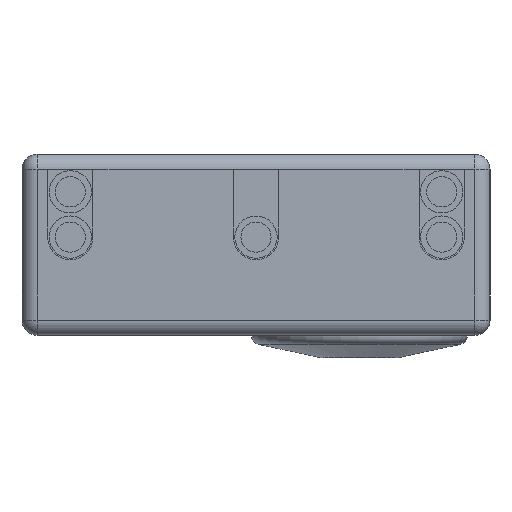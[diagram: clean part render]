
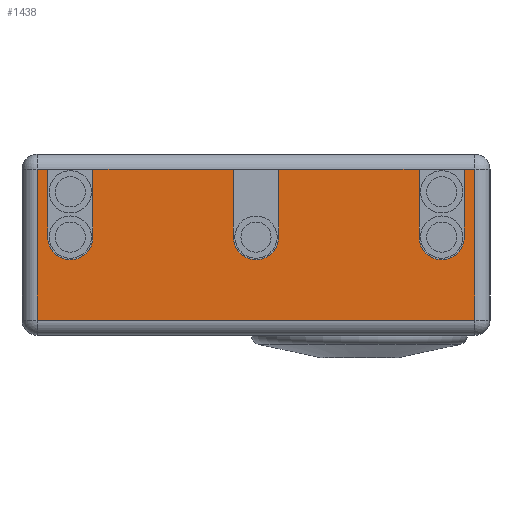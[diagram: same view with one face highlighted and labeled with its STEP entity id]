
A CAD part, left-side view. The second image highlights one B-rep face of the part: STEP entity #1438.
In plain terms, the highlighted planar face has unit normal (-1, 0, 0).
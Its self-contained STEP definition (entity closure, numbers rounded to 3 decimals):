
#73=PLANE('',#1627);
#160=FACE_OUTER_BOUND('',#259,.T.);
#259=EDGE_LOOP('',(#1246,#1247,#1248,#1249,#1250,#1251,#1252,#1253,#1254,
#1255,#1256,#1257,#1258,#1259,#1260,#1261));
#323=LINE('',#2312,#439);
#327=LINE('',#2321,#443);
#331=LINE('',#2330,#447);
#345=LINE('',#2369,#461);
#348=LINE('',#2375,#464);
#351=LINE('',#2381,#467);
#352=LINE('',#2387,#468);
#370=LINE('',#2459,#486);
#371=LINE('',#2460,#487);
#372=LINE('',#2461,#488);
#373=LINE('',#2463,#489);
#377=LINE('',#2477,#493);
#378=LINE('',#2479,#494);
#439=VECTOR('',#1885,10.);
#443=VECTOR('',#1891,10.);
#447=VECTOR('',#1897,10.);
#461=VECTOR('',#1939,10.);
#464=VECTOR('',#1946,10.);
#467=VECTOR('',#1953,10.);
#468=VECTOR('',#1958,10.);
#486=VECTOR('',#2044,10.);
#487=VECTOR('',#2045,10.);
#488=VECTOR('',#2046,10.);
#489=VECTOR('',#2047,10.);
#493=VECTOR('',#2071,10.);
#494=VECTOR('',#2074,10.);
#544=CIRCLE('',#1565,1.5);
#546=CIRCLE('',#1569,1.5);
#548=CIRCLE('',#1573,1.5);
#644=VERTEX_POINT('',#2308);
#646=VERTEX_POINT('',#2311);
#648=VERTEX_POINT('',#2317);
#650=VERTEX_POINT('',#2320);
#652=VERTEX_POINT('',#2326);
#654=VERTEX_POINT('',#2329);
#657=VERTEX_POINT('',#2337);
#660=VERTEX_POINT('',#2347);
#663=VERTEX_POINT('',#2357);
#665=VERTEX_POINT('',#2365);
#666=VERTEX_POINT('',#2371);
#667=VERTEX_POINT('',#2377);
#669=VERTEX_POINT('',#2384);
#670=VERTEX_POINT('',#2386);
#690=VERTEX_POINT('',#2457);
#691=VERTEX_POINT('',#2462);
#800=EDGE_CURVE('',#646,#644,#323,.T.);
#804=EDGE_CURVE('',#650,#648,#327,.T.);
#808=EDGE_CURVE('',#654,#652,#331,.T.);
#813=EDGE_CURVE('',#657,#644,#544,.T.);
#818=EDGE_CURVE('',#660,#648,#546,.T.);
#823=EDGE_CURVE('',#663,#652,#548,.T.);
#828=EDGE_CURVE('',#660,#665,#345,.T.);
#831=EDGE_CURVE('',#657,#666,#348,.T.);
#834=EDGE_CURVE('',#663,#667,#351,.T.);
#836=EDGE_CURVE('',#669,#670,#352,.T.);
#872=EDGE_CURVE('',#690,#667,#370,.T.);
#873=EDGE_CURVE('',#654,#665,#371,.T.);
#874=EDGE_CURVE('',#650,#666,#372,.T.);
#875=EDGE_CURVE('',#646,#691,#373,.T.);
#884=EDGE_CURVE('',#691,#669,#377,.T.);
#885=EDGE_CURVE('',#670,#690,#378,.T.);
#1246=ORIENTED_EDGE('',*,*,#828,.T.);
#1247=ORIENTED_EDGE('',*,*,#873,.F.);
#1248=ORIENTED_EDGE('',*,*,#808,.T.);
#1249=ORIENTED_EDGE('',*,*,#823,.F.);
#1250=ORIENTED_EDGE('',*,*,#834,.T.);
#1251=ORIENTED_EDGE('',*,*,#872,.F.);
#1252=ORIENTED_EDGE('',*,*,#885,.F.);
#1253=ORIENTED_EDGE('',*,*,#836,.F.);
#1254=ORIENTED_EDGE('',*,*,#884,.F.);
#1255=ORIENTED_EDGE('',*,*,#875,.F.);
#1256=ORIENTED_EDGE('',*,*,#800,.T.);
#1257=ORIENTED_EDGE('',*,*,#813,.F.);
#1258=ORIENTED_EDGE('',*,*,#831,.T.);
#1259=ORIENTED_EDGE('',*,*,#874,.F.);
#1260=ORIENTED_EDGE('',*,*,#804,.T.);
#1261=ORIENTED_EDGE('',*,*,#818,.F.);
#1438=ADVANCED_FACE('',(#160),#73,.T.);
#1565=AXIS2_PLACEMENT_3D('',#2339,#1905,#1906);
#1569=AXIS2_PLACEMENT_3D('',#2349,#1916,#1917);
#1573=AXIS2_PLACEMENT_3D('',#2359,#1927,#1928);
#1627=AXIS2_PLACEMENT_3D('',#2478,#2072,#2073);
#1885=DIRECTION('',(0.,0.,-1.));
#1891=DIRECTION('',(0.,0.,-1.));
#1897=DIRECTION('',(0.,0.,-1.));
#1905=DIRECTION('center_axis',(-1.,0.,0.));
#1906=DIRECTION('ref_axis',(0.,0.707,-0.707));
#1916=DIRECTION('center_axis',(-1.,0.,0.));
#1917=DIRECTION('ref_axis',(0.,0.707,-0.707));
#1927=DIRECTION('center_axis',(-1.,0.,0.));
#1928=DIRECTION('ref_axis',(0.,0.707,-0.707));
#1939=DIRECTION('',(0.,0.,1.));
#1946=DIRECTION('',(0.,0.,1.));
#1953=DIRECTION('',(0.,0.,1.));
#1958=DIRECTION('',(0.,1.,0.));
#2044=DIRECTION('',(0.,-1.,0.));
#2045=DIRECTION('',(0.,-1.,0.));
#2046=DIRECTION('',(0.,-1.,0.));
#2047=DIRECTION('',(0.,-1.,0.));
#2071=DIRECTION('',(0.,0.,-1.));
#2072=DIRECTION('center_axis',(-1.,0.,0.));
#2073=DIRECTION('ref_axis',(0.,-1.,0.));
#2074=DIRECTION('',(0.,0.,1.));
#2308=CARTESIAN_POINT('',(-25.25,-13.8,6.5));
#2311=CARTESIAN_POINT('',(-25.25,-13.8,11.));
#2312=CARTESIAN_POINT('',(-25.25,-13.8,5.5));
#2317=CARTESIAN_POINT('',(-25.25,-1.5,6.5));
#2320=CARTESIAN_POINT('',(-25.25,-1.5,11.));
#2321=CARTESIAN_POINT('',(-25.25,-1.5,5.5));
#2326=CARTESIAN_POINT('',(-25.25,10.8,6.5));
#2329=CARTESIAN_POINT('',(-25.25,10.8,11.));
#2330=CARTESIAN_POINT('',(-25.25,10.8,5.5));
#2337=CARTESIAN_POINT('',(-25.25,-10.8,6.5));
#2339=CARTESIAN_POINT('Origin',(-25.25,-12.3,6.5));
#2347=CARTESIAN_POINT('',(-25.25,1.5,6.5));
#2349=CARTESIAN_POINT('Origin',(-25.25,0.,6.5));
#2357=CARTESIAN_POINT('',(-25.25,13.8,6.5));
#2359=CARTESIAN_POINT('Origin',(-25.25,12.3,6.5));
#2365=CARTESIAN_POINT('',(-25.25,1.5,11.));
#2369=CARTESIAN_POINT('',(-25.25,1.5,2.5));
#2371=CARTESIAN_POINT('',(-25.25,-10.8,11.));
#2375=CARTESIAN_POINT('',(-25.25,-10.8,2.5));
#2377=CARTESIAN_POINT('',(-25.25,13.8,11.));
#2381=CARTESIAN_POINT('',(-25.25,13.8,2.5));
#2384=CARTESIAN_POINT('',(-25.25,-14.5,1.));
#2386=CARTESIAN_POINT('',(-25.25,14.5,1.));
#2387=CARTESIAN_POINT('',(-25.25,7.75,1.));
#2457=CARTESIAN_POINT('',(-25.25,14.5,11.));
#2459=CARTESIAN_POINT('',(-25.25,7.75,11.));
#2460=CARTESIAN_POINT('',(-25.25,7.75,11.));
#2461=CARTESIAN_POINT('',(-25.25,7.75,11.));
#2462=CARTESIAN_POINT('',(-25.25,-14.5,11.));
#2463=CARTESIAN_POINT('',(-25.25,7.75,11.));
#2477=CARTESIAN_POINT('',(-25.25,-14.5,0.));
#2478=CARTESIAN_POINT('Origin',(-25.25,15.5,0.));
#2479=CARTESIAN_POINT('',(-25.25,14.5,0.));
